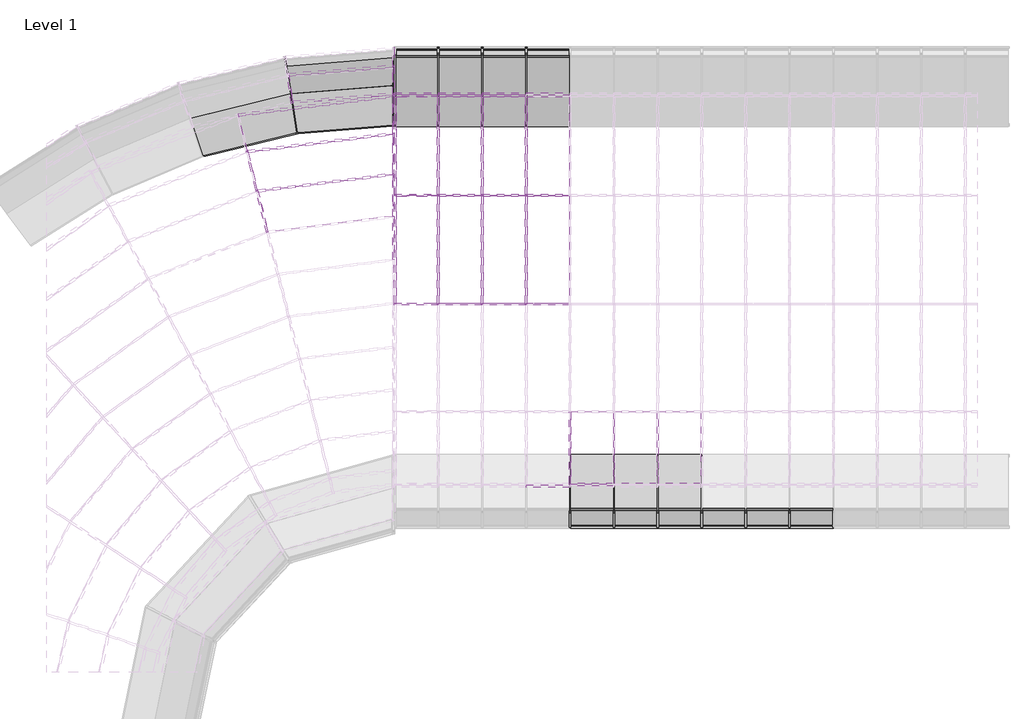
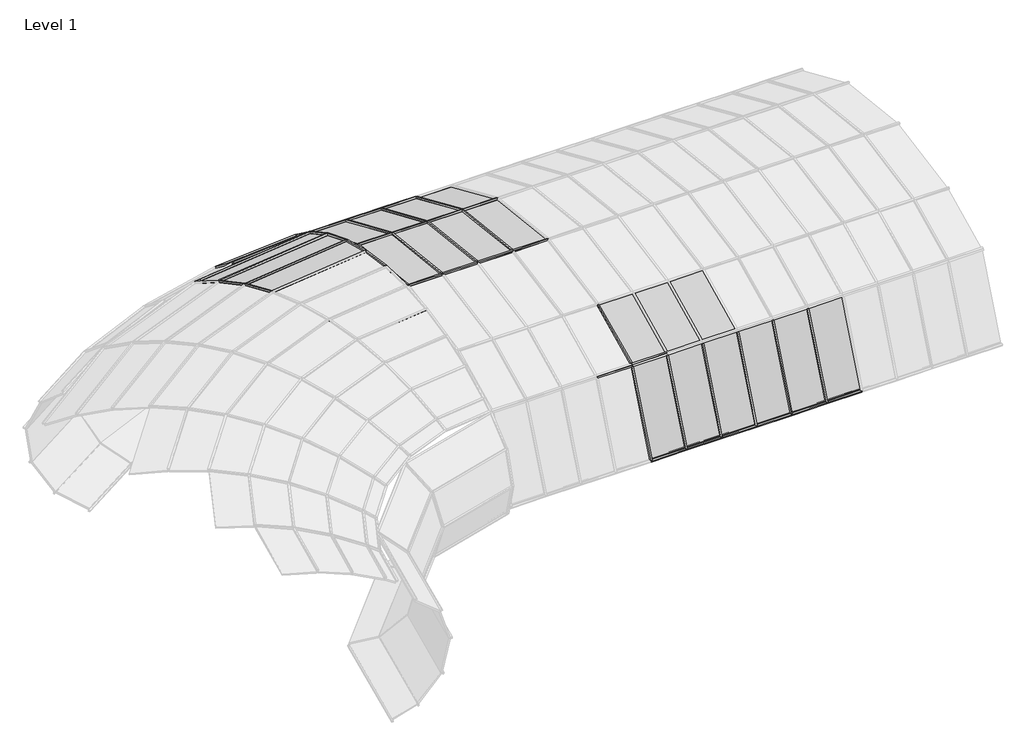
# One storey, part 17 of 23: 73 members, 35 plates.
"""IFC4 building model written with IfcOpenShell, lengths in millimetres."""

from ifc_helpers import new_model, si_unit, origin, place, context, project, spatial, transform, mapped, element, save
from components import member_e3cda178, member_5c7fdabc, member_447cb305, member_9c203333, member_b8d5ad2c, member_f15ee7b7, member_0b29da72, member_7a2ca0a4, member_e6283771, member_68981e21, member_3e1f1dd8, member_d6b8231b, member_8c9da58c, member_01ebdf2a, member_0cd36c09, member_f53a45b1, member_b799f41d, member_a86ed3bc, member_8df4d526, member_0f8f75f6, member_42213d33, member_14e241b9, member_67cfadff, member_309acb9e, member_25f397f4, member_ca6af547, member_12ee2c91, member_00f58b5b, member_1d69e541, member_3d0f16ec, system_panel_glazed_4989902e, system_panel_glazed_3bd09d45, system_panel_glazed_8ed0c2f1, system_panel_glazed_c0d17033, system_panel_glazed_51f493bd, system_panel_glazed_6e806f8e, system_panel_glazed_a1f64e1d, system_panel_glazed_6ab21abb, system_panel_glazed_3957fabc, system_panel_glazed_dfe8d515, system_panel_glazed_035c538e, system_panel_glazed_ea3045b6, system_panel_glazed_7f1dd4a7, system_panel_glazed_0de345d1

model = new_model("IFC4")

# Units and contexts
model_context = context("Model", 3, world=origin())
ifc_project = project(units=[si_unit("LENGTHUNIT", "METRE", prefix="MILLI")], contexts=[model_context])

# Site, building, storey
site = spatial("IfcSite", under=ifc_project)
building = spatial("IfcBuilding", under=site)
storey = spatial("IfcBuildingStorey", under=building, Name="Level 1", Elevation=0.0)

# Members
placement = place(None, origin())
member_shape = member_e3cda178(model_context)
element("IfcMember", 1, ObjectType="Rectangular Mullion : 1\" Square", at=placement, inside=storey, context=model_context, shape_type="MappedRepresentation", body=[
    mapped(member_shape, transform((-11947.494964, 6755.4298316, 2378.3537392), x_axis=(0.11179864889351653, -0.8986414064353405, 0.424198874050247), y_axis=(-0.0523702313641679, 0.4209537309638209, 0.9055690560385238), z_axis=(-0.9923499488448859, -0.12345679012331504, 0.0))),
])
member_2_shape = member_5c7fdabc(model_context)
element("IfcMember", 2, ObjectType="Rectangular Mullion : 1\" Square", at=placement, inside=storey, context=model_context, shape_type="MappedRepresentation", body=[
    mapped(member_2_shape, transform((-11808.8699791, 6206.916685, 2605.3528615), x_axis=(0.1172140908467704, -0.9421709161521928, 0.3139662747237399), y_axis=(-0.03876126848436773, 0.31156441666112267, 0.9494341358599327), z_axis=(-0.9923499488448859, -0.12345679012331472, 0.0))),
])
member_3_shape = member_447cb305(model_context)
element("IfcMember", 3, ObjectType="Rectangular Mullion : 1\" Square", at=placement, inside=storey, context=model_context, shape_type="MappedRepresentation", body=[
    mapped(member_3_shape, transform((-9938.1556701, 7540.1167728, 2085.6089632), x_axis=(-0.10809684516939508, 0.868886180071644, -0.48306508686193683), y_axis=(-0.05963766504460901, 0.4793696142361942, 0.8755844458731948), z_axis=(0.9923499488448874, 0.12345679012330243, 0.0))),
])
member_4_shape = member_9c203333(model_context)
element("IfcMember", 4, ObjectType="Rectangular Mullion : 1\" Square", at=placement, inside=storey, context=model_context, shape_type="MappedRepresentation", body=[
    mapped(member_4_shape, transform((-11274.5302395, 7000.5494364, 0.0), x_axis=(0.2284007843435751, -0.9320944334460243, -0.2811281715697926), y_axis=(-0.06690829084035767, 0.27305004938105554, -0.9596702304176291), z_axis=(0.9712653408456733, 0.2379992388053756, 0.0))),
])
member_5_shape = member_b8d5ad2c(model_context)
element("IfcMember", 5, ObjectType="Rectangular Mullion : 1\" Square", at=placement, inside=storey, context=model_context, shape_type="MappedRepresentation", body=[
    mapped(member_5_shape, transform((-11342.8806242, 7582.2581608, 170.8694653), x_axis=(-0.06753687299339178, 0.8413340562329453, 0.5362795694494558), y_axis=(-0.042911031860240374, 0.534560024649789, -0.8440404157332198), z_axis=(-0.9967935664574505, -0.08001616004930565, 0.0))),
])
member_6_shape = member_f15ee7b7(model_context)
element("IfcMember", 6, ObjectType="Rectangular Mullion : 1\" Square", at=placement, inside=storey, context=model_context, shape_type="MappedRepresentation", body=[
    mapped(member_6_shape, transform((-9938.268538, 7109.8483199, 0.0), x_axis=(0.07678912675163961, -0.956593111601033, -0.28112817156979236), y_axis=(-0.02249479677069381, 0.2802267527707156, -0.9596702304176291), z_axis=(0.9967935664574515, 0.08001616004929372, 0.0))),
])
member_7_shape = member_0b29da72(model_context)
element("IfcMember", 7, ObjectType="Rectangular Mullion : 1\" Square", at=placement, inside=storey, context=model_context, shape_type="MappedRepresentation", body=[
    mapped(member_7_shape, transform((-11406.8901733, 7978.385404, 629.7792003), x_axis=(-0.033789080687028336, 0.42092420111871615, 0.9064662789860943), y_axis=(-0.07253195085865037, 0.9035597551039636, -0.4222782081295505), z_axis=(-0.9967935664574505, -0.08001616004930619, 0.0))),
])
member_8_shape = member_7a2ca0a4(model_context)
element("IfcMember", 8, ObjectType="Rectangular Mullion : 1\" Square", at=placement, inside=storey, context=model_context, shape_type="MappedRepresentation", body=[
    mapped(member_8_shape, transform((-11381.9802385, 7824.2286581, 1789.6405438), x_axis=(0.05180238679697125, -0.6453232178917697, 0.762151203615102), y_axis=(-0.06098441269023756, 0.759707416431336, 0.647399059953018), z_axis=(-0.9967935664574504, -0.08001616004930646, 0.0))),
])
member_9_shape = member_e6283771(model_context)
element("IfcMember", 9, ObjectType="Rectangular Mullion : 1\" Square", at=placement, inside=storey, context=model_context, shape_type="MappedRepresentation", body=[
    mapped(member_9_shape, transform((-11318.3479775, 7430.4362864, 2085.6089632), x_axis=(0.06418665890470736, -0.7995990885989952, 0.5970941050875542), y_axis=(-0.047777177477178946, 0.5951795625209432, 0.8021711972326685), z_axis=(-0.9967935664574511, -0.08001616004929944, 0.0))),
])
member_10_shape = member_68981e21(model_context)
element("IfcMember", 10, ObjectType="Rectangular Mullion : 1\" Square", at=placement, inside=storey, context=model_context, shape_type="MappedRepresentation", body=[
    mapped(member_10_shape, transform((-7474.5499814, 2539.8807303, 0.0), x_axis=(0.0, 0.8307182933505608, -0.5566930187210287), y_axis=(0.0, -0.5566930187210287, -0.8307182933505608), z_axis=(-1.0, 0.0, 0.0))),
])
element("IfcMember", 11, ObjectType="Rectangular Mullion : 1\" Square", at=placement, inside=storey, context=model_context, shape_type="MappedRepresentation", body=[
    mapped(member_10_shape, transform((-6864.9499814, 2539.8807303, 0.0), x_axis=(0.0, 0.8307182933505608, -0.5566930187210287), y_axis=(0.0, -0.5566930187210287, -0.8307182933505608), z_axis=(-1.0, 0.0, 0.0))),
])
element("IfcMember", 12, ObjectType="Rectangular Mullion : 1\" Square", at=placement, inside=storey, context=model_context, shape_type="MappedRepresentation", body=[
    mapped(member_10_shape, transform((-6255.3499814, 2539.8807303, 0.0), x_axis=(0.0, 0.8307182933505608, -0.5566930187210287), y_axis=(0.0, -0.5566930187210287, -0.8307182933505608), z_axis=(-1.0, 0.0, 0.0))),
])
element("IfcMember", 13, ObjectType="Rectangular Mullion : 1\" Square", at=placement, inside=storey, context=model_context, shape_type="MappedRepresentation", body=[
    mapped(member_10_shape, transform((-7474.5499814, 2108.5088854, 2085.6089632), x_axis=(0.0, -0.9009025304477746, -0.4340214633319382), y_axis=(0.0, -0.4340214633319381, 0.9009025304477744), z_axis=(-1.0, 0.0, 0.0))),
])
element("IfcMember", 14, ObjectType="Rectangular Mullion : 1\" Square", at=placement, inside=storey, context=model_context, shape_type="MappedRepresentation", body=[
    mapped(member_10_shape, transform((-8693.7499814, 7543.2525753, 2085.6089632), x_axis=(0.0, 0.9167487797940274, -0.39946423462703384), y_axis=(0.0, 0.39946423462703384, 0.9167487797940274), z_axis=(1.0, 0.0, 0.0))),
])
element("IfcMember", 15, ObjectType="Rectangular Mullion : 1\" Square", at=placement, inside=storey, context=model_context, shape_type="MappedRepresentation", body=[
    mapped(member_10_shape, transform((-8084.1499814, 7543.2525753, 2085.6089632), x_axis=(0.0, 0.9167487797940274, -0.39946423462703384), y_axis=(0.0, 0.39946423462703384, 0.9167487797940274), z_axis=(1.0, 0.0, 0.0))),
])
element("IfcMember", 16, ObjectType="Rectangular Mullion : 1\" Square", at=placement, inside=storey, context=model_context, shape_type="MappedRepresentation", body=[
    mapped(member_10_shape, transform((-8084.1499814, 7111.8807303, 0.0), x_axis=(0.0, -0.713412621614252, -0.7007441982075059), y_axis=(0.0, 0.7007441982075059, -0.713412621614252), z_axis=(1.0, 0.0, 0.0))),
])
element("IfcMember", 17, ObjectType="Rectangular Mullion : 1\" Square", at=placement, inside=storey, context=model_context, shape_type="MappedRepresentation", body=[
    mapped(member_10_shape, transform((-8693.7499814, 7111.8807303, 0.0), x_axis=(0.0, -0.713412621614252, -0.7007441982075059), y_axis=(0.0, 0.7007441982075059, -0.713412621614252), z_axis=(1.0, 0.0, 0.0))),
])
member_11_shape = member_3e1f1dd8(model_context)
element("IfcMember", 18, ObjectType="Rectangular Mullion : 1\" Square", at=placement, inside=storey, context=model_context, shape_type="MappedRepresentation", body=[
    mapped(member_11_shape, transform((-7474.5499814, 1534.1192339, 673.9955146), x_axis=(0.0, 0.38018576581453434, -0.9249101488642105), y_axis=(0.0, -0.9249101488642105, -0.38018576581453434), z_axis=(-1.0, 0.0, 0.0))),
])
element("IfcMember", 19, ObjectType="Rectangular Mullion : 1\" Square", at=placement, inside=storey, context=model_context, shape_type="MappedRepresentation", body=[
    mapped(member_11_shape, transform((-6864.9499814, 1534.1192339, 673.9955146), x_axis=(0.0, 0.38018576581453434, -0.9249101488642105), y_axis=(0.0, -0.9249101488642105, -0.38018576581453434), z_axis=(-1.0, 0.0, 0.0))),
])
element("IfcMember", 20, ObjectType="Rectangular Mullion : 1\" Square", at=placement, inside=storey, context=model_context, shape_type="MappedRepresentation", body=[
    mapped(member_11_shape, transform((-6255.3499814, 1534.1192339, 673.9955146), x_axis=(0.0, 0.38018576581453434, -0.9249101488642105), y_axis=(0.0, -0.9249101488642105, -0.38018576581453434), z_axis=(-1.0, 0.0, 0.0))),
])
element("IfcMember", 21, ObjectType="Rectangular Mullion : 1\" Square", at=placement, inside=storey, context=model_context, shape_type="MappedRepresentation", body=[
    mapped(member_11_shape, transform((-5645.7499814, 1534.1192339, 673.9955146), x_axis=(0.0, 0.38018576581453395, -0.9249101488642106), y_axis=(0.0, -0.9249101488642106, -0.38018576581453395), z_axis=(-1.0, 0.0, 0.0))),
])
element("IfcMember", 22, ObjectType="Rectangular Mullion : 1\" Square", at=placement, inside=storey, context=model_context, shape_type="MappedRepresentation", body=[
    mapped(member_11_shape, transform((-5036.1499814, 1534.1192339, 673.9955146), x_axis=(0.0, 0.38018576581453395, -0.9249101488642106), y_axis=(0.0, -0.9249101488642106, -0.38018576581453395), z_axis=(-1.0, 0.0, 0.0))),
])
element("IfcMember", 23, ObjectType="Rectangular Mullion : 1\" Square", at=placement, inside=storey, context=model_context, shape_type="MappedRepresentation", body=[
    mapped(member_11_shape, transform((-4426.5499814, 1534.1192339, 673.9955146), x_axis=(0.0, 0.38018576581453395, -0.9249101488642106), y_axis=(0.0, -0.9249101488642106, -0.38018576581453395), z_axis=(-1.0, 0.0, 0.0))),
])
element("IfcMember", 24, ObjectType="Rectangular Mullion : 1\" Square", at=placement, inside=storey, context=model_context, shape_type="MappedRepresentation", body=[
    mapped(member_11_shape, transform((-9303.3499814, 4631.6132499, 2864.1651971), x_axis=(0.0, -0.9992773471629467, -0.038010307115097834), y_axis=(0.0, -0.038010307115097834, 0.9992773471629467), z_axis=(-1.0, 0.0, 0.0))),
])
element("IfcMember", 25, ObjectType="Rectangular Mullion : 1\" Square", at=placement, inside=storey, context=model_context, shape_type="MappedRepresentation", body=[
    mapped(member_11_shape, transform((-8693.7499814, 4631.6132499, 2864.1651971), x_axis=(0.0, -0.9992773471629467, -0.038010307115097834), y_axis=(0.0, -0.038010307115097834, 0.9992773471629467), z_axis=(-1.0, 0.0, 0.0))),
])
element("IfcMember", 26, ObjectType="Rectangular Mullion : 1\" Square", at=placement, inside=storey, context=model_context, shape_type="MappedRepresentation", body=[
    mapped(member_11_shape, transform((-8084.1499814, 4631.6132499, 2864.1651971), x_axis=(0.0, -0.9992773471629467, -0.038010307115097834), y_axis=(0.0, -0.038010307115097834, 0.9992773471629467), z_axis=(-1.0, 0.0, 0.0))),
])
element("IfcMember", 27, ObjectType="Rectangular Mullion : 1\" Square", at=placement, inside=storey, context=model_context, shape_type="MappedRepresentation", body=[
    mapped(member_11_shape, transform((-9912.9499814, 4631.6132499, 2864.1651971), x_axis=(0.0, -0.9992773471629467, -0.038010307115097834), y_axis=(0.0, -0.038010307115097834, 0.9992773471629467), z_axis=(-1.0, 0.0, 0.0))),
])
element("IfcMember", 28, ObjectType="Rectangular Mullion : 1\" Square", at=placement, inside=storey, context=model_context, shape_type="MappedRepresentation", body=[
    mapped(member_10_shape, transform((-7474.5499814, 2108.5088854, 2085.6089632), x_axis=(0.0, 0.37689609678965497, 0.9262555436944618), y_axis=(0.0, -0.9262555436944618, 0.37689609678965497), z_axis=(1.0, 0.0, 0.0))),
])
element("IfcMember", 29, ObjectType="Rectangular Mullion : 1\" Square", at=placement, inside=storey, context=model_context, shape_type="MappedRepresentation", body=[
    mapped(member_10_shape, transform((-9303.3499814, 7543.2525753, 2085.6089632), x_axis=(0.0, -0.5417212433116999, 0.8405582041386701), y_axis=(0.0, 0.8405582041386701, 0.5417212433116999), z_axis=(-1.0, 0.0, 0.0))),
])
element("IfcMember", 30, ObjectType="Rectangular Mullion : 1\" Square", at=placement, inside=storey, context=model_context, shape_type="MappedRepresentation", body=[
    mapped(member_10_shape, transform((-8693.7499814, 7543.2525753, 2085.6089632), x_axis=(0.0, -0.5417212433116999, 0.8405582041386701), y_axis=(0.0, 0.8405582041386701, 0.5417212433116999), z_axis=(-1.0, 0.0, 0.0))),
])
element("IfcMember", 31, ObjectType="Rectangular Mullion : 1\" Square", at=placement, inside=storey, context=model_context, shape_type="MappedRepresentation", body=[
    mapped(member_10_shape, transform((-8084.1499814, 7543.2525753, 2085.6089632), x_axis=(0.0, -0.5417212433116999, 0.8405582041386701), y_axis=(0.0, 0.8405582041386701, 0.5417212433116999), z_axis=(-1.0, 0.0, 0.0))),
])
element("IfcMember", 32, ObjectType="Rectangular Mullion : 1\" Square", at=placement, inside=storey, context=model_context, shape_type="MappedRepresentation", body=[
    mapped(member_11_shape, transform((-9303.3499814, 6146.1274349, 2694.3924567), x_axis=(0.0, -0.9660596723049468, 0.25831900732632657), y_axis=(0.0, 0.25831900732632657, 0.9660596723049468), z_axis=(-1.0, 0.0, 0.0))),
])
element("IfcMember", 33, ObjectType="Rectangular Mullion : 1\" Square", at=placement, inside=storey, context=model_context, shape_type="MappedRepresentation", body=[
    mapped(member_11_shape, transform((-8693.7499814, 6146.1274349, 2694.3924567), x_axis=(0.0, -0.9660596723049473, 0.25831900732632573), y_axis=(0.0, 0.2583190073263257, 0.966059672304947), z_axis=(-1.0, 0.0, 0.0))),
])
element("IfcMember", 34, ObjectType="Rectangular Mullion : 1\" Square", at=placement, inside=storey, context=model_context, shape_type="MappedRepresentation", body=[
    mapped(member_11_shape, transform((-8084.1499814, 6146.1274349, 2694.3924567), x_axis=(0.0, -0.9660596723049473, 0.25831900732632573), y_axis=(0.0, 0.2583190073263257, 0.966059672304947), z_axis=(-1.0, 0.0, 0.0))),
])
element("IfcMember", 35, ObjectType="Rectangular Mullion : 1\" Square", at=placement, inside=storey, context=model_context, shape_type="MappedRepresentation", body=[
    mapped(member_10_shape, transform((-9303.3499814, 7543.2525753, 2085.6089632), x_axis=(0.0, 0.9167487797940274, -0.3994642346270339), y_axis=(0.0, 0.3994642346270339, 0.9167487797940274), z_axis=(1.0, 0.0, 0.0))),
])
element("IfcMember", 36, ObjectType="Rectangular Mullion : 1\" Square", at=placement, inside=storey, context=model_context, shape_type="MappedRepresentation", body=[
    mapped(member_10_shape, transform((-9303.3499814, 7111.8807303, 0.0), x_axis=(0.0, -0.713412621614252, -0.7007441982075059), y_axis=(0.0, 0.7007441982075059, -0.713412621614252), z_axis=(1.0, 0.0, 0.0))),
])
element("IfcMember", 37, ObjectType="Rectangular Mullion : 1\" Square", at=placement, inside=storey, context=model_context, shape_type="MappedRepresentation", body=[
    mapped(member_11_shape, transform((-9912.9499814, 6146.1274349, 2694.3924567), x_axis=(0.0, -0.9660596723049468, 0.25831900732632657), y_axis=(0.0, 0.25831900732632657, 0.9660596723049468), z_axis=(-1.0, 0.0, 0.0))),
])
element("IfcMember", 38, ObjectType="Rectangular Mullion : 1\" Square", at=placement, inside=storey, context=model_context, shape_type="MappedRepresentation", body=[
    mapped(member_10_shape, transform((-9912.9499814, 7543.2525753, 2085.6089632), x_axis=(0.0, -0.5417212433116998, 0.8405582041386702), y_axis=(0.0, 0.8405582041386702, 0.5417212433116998), z_axis=(-1.0, 0.0, 0.0))),
])
member_12_shape = member_d6b8231b(model_context)
element("IfcMember", 39, ObjectType="Rectangular Mullion : 1\" Square", at=placement, inside=storey, context=model_context, shape_type="MappedRepresentation", body=[
    mapped(member_12_shape, transform((-11262.1951697, 7003.5720267, 0.0), x_axis=(-0.9871948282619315, -0.1595191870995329, 0.0), y_axis=(-0.04471285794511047, 0.2767084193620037, -0.9599131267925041), z_axis=(0.15312456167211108, -0.9476212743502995, -0.2802976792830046))),
])
member_13_shape = member_8c9da58c(model_context)
element("IfcMember", 40, ObjectType="Rectangular Mullion : 1\" Square", at=placement, inside=storey, context=model_context, shape_type="MappedRepresentation", body=[
    mapped(member_13_shape, transform((-11355.5399025, 7581.2419556, 170.8694653), x_axis=(-0.9871948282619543, -0.15951918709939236, 0.0), y_axis=(-0.12008679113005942, 0.7431648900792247, -0.6582439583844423), z_axis=(0.10500254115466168, -0.6498150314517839, -0.7528046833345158))),
])
element("IfcMember", 41, ObjectType="Rectangular Mullion : 1\" Square", at=placement, inside=storey, context=model_context, shape_type="MappedRepresentation", body=[
    mapped(member_13_shape, transform((-11419.5494516, 7977.3691988, 629.7792003), x_axis=(-0.9871948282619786, -0.1595191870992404, 0.0), y_axis=(-0.15772138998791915, 0.9760690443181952, -0.14971033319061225), z_axis=(0.02388167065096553, -0.14779326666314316, -0.9887299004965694))),
])
member_14_shape = member_01ebdf2a(model_context)
element("IfcMember", 42, ObjectType="Rectangular Mullion : 1\" Square", at=placement, inside=storey, context=model_context, shape_type="MappedRepresentation", body=[
    mapped(member_14_shape, transform((-11394.6395168, 7823.2124528, 1789.6405438), x_axis=(-0.9871948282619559, -0.15951918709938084, 0.0), y_axis=(-0.09505110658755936, 0.5882299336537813, 0.803088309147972), z_axis=(-0.12810799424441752, 0.792804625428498, -0.5958600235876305))),
])
member_15_shape = member_0cd36c09(model_context)
element("IfcMember", 43, ObjectType="Rectangular Mullion : 1\" Square", at=placement, inside=storey, context=model_context, shape_type="MappedRepresentation", body=[
    mapped(member_15_shape, transform((-11960.0978083, 6753.8619304, 2378.3537392), x_axis=(-0.9695168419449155, -0.24502467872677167, 0.0), y_axis=(-0.09124079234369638, 0.36102275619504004, 0.9280828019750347), z_axis=(-0.2274031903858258, 0.899791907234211, -0.37237388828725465))),
])
element("IfcMember", 44, ObjectType="Rectangular Mullion : 1\" Square", at=placement, inside=storey, context=model_context, shape_type="MappedRepresentation", body=[
    mapped(member_15_shape, transform((-11821.4728235, 6205.3487837, 2605.3528615), x_axis=(-0.9695168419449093, -0.24502467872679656, 0.0), y_axis=(-0.06351674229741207, 0.25132387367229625, 0.9658167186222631), z_axis=(-0.23664893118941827, 0.9363755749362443, -0.25922589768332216))),
])
member_16_shape = member_f53a45b1(model_context)
element("IfcMember", 45, ObjectType="Rectangular Mullion : 1\" Square", at=placement, inside=storey, context=model_context, shape_type="MappedRepresentation", body=[
    mapped(member_16_shape, transform((-9912.9499814, 7543.2525753, 2085.6089632), x_axis=(0.998858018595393, 0.02846851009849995, 0.03836929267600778), y_axis=(-0.04777717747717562, 0.595179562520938, 0.8021711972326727), z_axis=(0.0, -0.8030883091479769, 0.5958600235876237))),
])
member_17_shape = member_b799f41d(model_context)
element("IfcMember", 46, ObjectType="Rectangular Mullion : 1\" Square", at=placement, inside=storey, context=model_context, shape_type="MappedRepresentation", body=[
    mapped(member_17_shape, transform((-9912.9499814, 7008.5445652, 2378.3537392), x_axis=(0.9982200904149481, 0.02863946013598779, 0.052310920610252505), y_axis=(-0.05963766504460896, 0.4793696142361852, 0.8755844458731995), z_axis=(0.0, -0.8771456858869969, 0.4802243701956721))),
])
member_18_shape = member_a86ed3bc(model_context)
element("IfcMember", 47, ObjectType="Rectangular Mullion : 1\" Square", at=placement, inside=storey, context=model_context, shape_type="MappedRepresentation", body=[
    mapped(member_18_shape, transform((-9912.9499814, 7697.0437724, 170.8694653), x_axis=(0.9997469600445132, 0.006305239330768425, -0.021593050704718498), y_axis=(-0.02249479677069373, 0.28022675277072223, -0.9596702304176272), z_axis=(0.0, 0.9599131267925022, 0.2802976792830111))),
])
member_19_shape = member_8df4d526(model_context)
element("IfcMember", 48, ObjectType="Rectangular Mullion : 1\" Square", at=placement, inside=storey, context=model_context, shape_type="MappedRepresentation", body=[
    mapped(member_19_shape, transform((-9912.9499814, 7942.1529346, 1789.6405438), x_axis=(0.9973196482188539, 0.06687018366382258, 0.029696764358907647), y_axis=(-0.07316774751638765, 0.9114801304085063, 0.40478445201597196), z_axis=(0.0, -0.4058723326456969, 0.9139297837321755))),
])
member_20_shape = member_0f8f75f6(model_context)
element("IfcMember", 49, ObjectType="Rectangular Mullion : 1\" Square", at=placement, inside=storey, context=model_context, shape_type="MappedRepresentation", body=[
    mapped(member_20_shape, transform((-6864.9499814, 2518.7804857, 14.1400027), x_axis=(1.0, 0.0, 0.0), y_axis=(0.0, -0.5566930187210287, -0.8307182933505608), z_axis=(0.0, 0.8307182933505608, -0.5566930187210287))),
])
element("IfcMember", 50, ObjectType="Rectangular Mullion : 1\" Square", at=placement, inside=storey, context=model_context, shape_type="MappedRepresentation", body=[
    mapped(member_20_shape, transform((-6255.3499814, 2518.7804857, 14.1400027), x_axis=(1.0, 0.0, 0.0), y_axis=(0.0, -0.5566930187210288, -0.8307182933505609), z_axis=(0.0, 0.8307182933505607, -0.5566930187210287))),
])
element("IfcMember", 51, ObjectType="Rectangular Mullion : 1\" Square", at=placement, inside=storey, context=model_context, shape_type="MappedRepresentation", body=[
    mapped(member_20_shape, transform((-7474.5499814, 2518.7804857, 14.1400027), x_axis=(1.0, 0.0, 0.0), y_axis=(0.0, -0.5566930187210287, -0.8307182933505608), z_axis=(0.0, 0.8307182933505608, -0.5566930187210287))),
])
member_21_shape = member_42213d33(model_context)
element("IfcMember", 52, ObjectType="Rectangular Mullion : 1\" Square", at=placement, inside=storey, context=model_context, shape_type="MappedRepresentation", body=[
    mapped(member_21_shape, transform((-6864.9499814, 1538.9058143, 685.75896), x_axis=(1.0, 0.0, 0.0), y_axis=(0.0, -0.926255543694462, 0.3768960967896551), z_axis=(0.0, -0.37689609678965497, -0.9262555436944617))),
])
element("IfcMember", 53, ObjectType="Rectangular Mullion : 1\" Square", at=placement, inside=storey, context=model_context, shape_type="MappedRepresentation", body=[
    mapped(member_21_shape, transform((-6255.3499814, 1538.9058143, 685.75896), x_axis=(1.0, 0.0, 0.0), y_axis=(0.0, -0.926255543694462, 0.3768960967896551), z_axis=(0.0, -0.37689609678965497, -0.9262555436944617))),
])
element("IfcMember", 54, ObjectType="Rectangular Mullion : 1\" Square", at=placement, inside=storey, context=model_context, shape_type="MappedRepresentation", body=[
    mapped(member_21_shape, transform((-5645.7499814, 1538.9058143, 685.75896), x_axis=(0.9999999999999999, 0.0, 0.0), y_axis=(0.0, -0.926255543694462, 0.376896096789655), z_axis=(0.0, -0.37689609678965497, -0.9262555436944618))),
])
element("IfcMember", 55, ObjectType="Rectangular Mullion : 1\" Square", at=placement, inside=storey, context=model_context, shape_type="MappedRepresentation", body=[
    mapped(member_21_shape, transform((-5036.1499814, 1538.9058143, 685.75896), x_axis=(0.9999999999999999, 0.0, 0.0), y_axis=(0.0, -0.926255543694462, 0.376896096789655), z_axis=(0.0, -0.37689609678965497, -0.9262555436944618))),
])
element("IfcMember", 56, ObjectType="Rectangular Mullion : 1\" Square", at=placement, inside=storey, context=model_context, shape_type="MappedRepresentation", body=[
    mapped(member_21_shape, transform((-4426.5499814, 1538.9058143, 685.75896), x_axis=(0.9999999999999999, 0.0, 0.0), y_axis=(0.0, -0.926255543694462, 0.376896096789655), z_axis=(0.0, -0.37689609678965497, -0.9262555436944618))),
])
element("IfcMember", 57, ObjectType="Rectangular Mullion : 1\" Square", at=placement, inside=storey, context=model_context, shape_type="MappedRepresentation", body=[
    mapped(member_21_shape, transform((-7474.5499814, 1538.9058143, 685.75896), x_axis=(1.0, 0.0, 0.0), y_axis=(0.0, -0.926255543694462, 0.3768960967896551), z_axis=(0.0, -0.37689609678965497, -0.9262555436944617))),
])
member_22_shape = member_14e241b9(model_context)
element("IfcMember", 58, ObjectType="Rectangular Mullion : 1\" Square", at=placement, inside=storey, context=model_context, shape_type="MappedRepresentation", body=[
    mapped(member_22_shape, transform((-7474.5499814, 2131.3918096, 2096.6331083), x_axis=(1.0, 0.0, 0.0), y_axis=(0.0, -0.43402146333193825, 0.9009025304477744), z_axis=(0.0, -0.9009025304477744, -0.43402146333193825))),
])
member_23_shape = member_67cfadff(model_context)
element("IfcMember", 59, ObjectType="Rectangular Mullion : 1\" Square", at=placement, inside=storey, context=model_context, shape_type="MappedRepresentation", body=[
    mapped(member_23_shape, transform((-8693.7499814, 6157.7701444, 2689.3192609), x_axis=(0.9999999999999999, 0.0, 0.0), y_axis=(0.0, 0.3994642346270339, 0.9167487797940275), z_axis=(0.0, -0.9167487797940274, 0.39946423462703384))),
])
element("IfcMember", 60, ObjectType="Rectangular Mullion : 1\" Square", at=placement, inside=storey, context=model_context, shape_type="MappedRepresentation", body=[
    mapped(member_23_shape, transform((-9303.3499814, 6157.7701444, 2689.3192609), x_axis=(1.0, 0.0, 0.0), y_axis=(0.0, 0.3994642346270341, 0.9167487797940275), z_axis=(0.0, -0.9167487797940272, 0.399464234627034))),
])
element("IfcMember", 61, ObjectType="Rectangular Mullion : 1\" Square", at=placement, inside=storey, context=model_context, shape_type="MappedRepresentation", body=[
    mapped(member_23_shape, transform((-8084.1499814, 6157.7701444, 2689.3192609), x_axis=(0.9999999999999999, 0.0, 0.0), y_axis=(0.0, 0.3994642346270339, 0.9167487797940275), z_axis=(0.0, -0.9167487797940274, 0.39946423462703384))),
])
member_24_shape = member_309acb9e(model_context)
element("IfcMember", 62, ObjectType="Rectangular Mullion : 1\" Square", at=placement, inside=storey, context=model_context, shape_type="MappedRepresentation", body=[
    mapped(member_24_shape, transform((-8693.7499814, 4644.2342014, 2862.7504243), x_axis=(0.9999999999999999, 0.0, 0.0), y_axis=(0.0, 0.1113994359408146, 0.9937757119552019), z_axis=(0.0, -0.9937757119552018, 0.11139943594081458))),
])
element("IfcMember", 63, ObjectType="Rectangular Mullion : 1\" Square", at=placement, inside=storey, context=model_context, shape_type="MappedRepresentation", body=[
    mapped(member_24_shape, transform((-9303.3499814, 4644.2342014, 2862.7504243), x_axis=(0.9999999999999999, 0.0, 0.0), y_axis=(0.0, 0.11139943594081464, 0.9937757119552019), z_axis=(0.0, -0.9937757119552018, 0.11139943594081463))),
])
element("IfcMember", 64, ObjectType="Rectangular Mullion : 1\" Square", at=placement, inside=storey, context=model_context, shape_type="MappedRepresentation", body=[
    mapped(member_24_shape, transform((-8084.1499814, 4644.2342014, 2862.7504243), x_axis=(0.9999999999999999, 0.0, 0.0), y_axis=(0.0, 0.1113994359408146, 0.9937757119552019), z_axis=(0.0, -0.9937757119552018, 0.11139943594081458))),
])
element("IfcMember", 65, ObjectType="Rectangular Mullion : 1\" Square", at=placement, inside=storey, context=model_context, shape_type="MappedRepresentation", body=[
    mapped(member_20_shape, transform((-8084.1499814, 7557.0122949, 2064.2587848), x_axis=(1.0, 0.0, 0.0), y_axis=(0.0, 0.8405582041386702, 0.5417212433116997), z_axis=(0.0, -0.5417212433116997, 0.8405582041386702))),
])
element("IfcMember", 66, ObjectType="Rectangular Mullion : 1\" Square", at=placement, inside=storey, context=model_context, shape_type="MappedRepresentation", body=[
    mapped(member_20_shape, transform((-8693.7499814, 7557.0122949, 2064.2587848), x_axis=(1.0, 0.0, 0.0), y_axis=(0.0, 0.8405582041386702, 0.5417212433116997), z_axis=(0.0, -0.5417212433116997, 0.8405582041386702))),
])
element("IfcMember", 67, ObjectType="Rectangular Mullion : 1\" Square", at=placement, inside=storey, context=model_context, shape_type="MappedRepresentation", body=[
    mapped(member_20_shape, transform((-9303.3499814, 7557.0122949, 2064.2587848), x_axis=(1.0, 0.0, 0.0), y_axis=(0.0, 0.8405582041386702, 0.5417212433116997), z_axis=(0.0, -0.5417212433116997, 0.8405582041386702))),
])
member_25_shape = member_25f397f4(model_context)
element("IfcMember", 68, ObjectType="Rectangular Mullion : 1\" Square", at=placement, inside=storey, context=model_context, shape_type="MappedRepresentation", body=[
    mapped(member_25_shape, transform((-9912.9499814, 7130.0014109, 17.7989026), x_axis=(-1.0, 0.0, 0.0), y_axis=(0.0, 0.7007441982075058, -0.713412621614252), z_axis=(0.0, -0.713412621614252, -0.7007441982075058))),
])
member_26_shape = member_ca6af547(model_context)
element("IfcMember", 69, ObjectType="Rectangular Mullion : 1\" Square", at=placement, inside=storey, context=model_context, shape_type="MappedRepresentation", body=[
    mapped(member_26_shape, transform((-9912.9499814, 5250.6348627, 2850.17796), x_axis=(0.9998431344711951, 0.002521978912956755, 0.017531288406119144), y_axis=(-0.017711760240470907, 0.14236774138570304, 0.9896553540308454), z_axis=(0.0, -0.9898106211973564, 0.1423900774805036))),
])
member_27_shape = member_12ee2c91(model_context)
element("IfcMember", 70, ObjectType="Rectangular Mullion : 1\" Square", at=placement, inside=storey, context=model_context, shape_type="MappedRepresentation", body=[
    mapped(member_27_shape, transform((-9912.9499814, 6442.7852891, 2605.3528615), x_axis=(0.9989286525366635, 0.017232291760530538, 0.042948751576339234), y_axis=(-0.04627685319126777, 0.371974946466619, 0.9270885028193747), z_axis=(0.0, -0.9280828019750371, 0.3723738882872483))),
])
member_28_shape = member_00f58b5b(model_context)
element("IfcMember", 71, ObjectType="Rectangular Mullion : 1\" Square", at=placement, inside=storey, context=model_context, shape_type="MappedRepresentation", body=[
    mapped(member_28_shape, transform((-9912.9499814, 5854.0234174, 2763.3769688), x_axis=(0.9994803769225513, 0.008355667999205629, 0.031131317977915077), y_axis=(-0.03223315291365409, 0.259091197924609, 0.9653148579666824), z_axis=(0.0, -0.9658167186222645, 0.25922589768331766))),
])
member_29_shape = member_1d69e541(model_context)
element("IfcMember", 72, ObjectType="Rectangular Mullion : 1\" Square", at=placement, inside=storey, context=model_context, shape_type="MappedRepresentation", body=[
    mapped(member_29_shape, transform((-9912.9499814, 6133.5064834, 2695.8072296), x_axis=(-1.0, 0.0, 0.0), y_axis=(0.0, 0.11139943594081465, 0.993775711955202), z_axis=(0.0, 0.9937757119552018, -0.11139943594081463))),
])
member_30_shape = member_3d0f16ec(model_context)
element("IfcMember", 73, ObjectType="Rectangular Mullion : 1\" Square", at=placement, inside=storey, context=model_context, shape_type="MappedRepresentation", body=[
    mapped(member_30_shape, transform((-9912.9499814, 7519.9671563, 2095.7553547), x_axis=(-1.0, 0.0, 0.0), y_axis=(0.0, 0.3994642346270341, 0.9167487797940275), z_axis=(0.0, 0.9167487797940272, -0.399464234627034))),
])

# Plates
system_panel_glazed_shape = system_panel_glazed_4989902e(model_context)
element("IfcPlate", 74, ObjectType="System Panel : Glazed", at=placement, inside=storey, context=model_context, shape_type="MappedRepresentation", body=[
    mapped(system_panel_glazed_shape, transform((-9887.5499814, 6838.8686503, 2392.5373078), x_axis=(0.0, -0.9167487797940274, 0.3994642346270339), y_axis=(0.0, -0.3994642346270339, -0.9167487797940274), z_axis=(1.0, 0.0, 0.0))),
])
element("IfcPlate", 75, ObjectType="System Panel : Glazed", at=placement, inside=storey, context=model_context, shape_type="MappedRepresentation", body=[
    mapped(system_panel_glazed_shape, transform((-9887.5499814, 7660.0313181, 538.4168047), x_axis=(0.0, 0.713412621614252, 0.7007441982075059), y_axis=(0.0, -0.7007441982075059, 0.713412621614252), z_axis=(1.0, 0.0, 0.0))),
])
system_panel_glazed_2_shape = system_panel_glazed_3bd09d45(model_context)
element("IfcPlate", 76, ObjectType="System Panel : Glazed", at=placement, inside=storey, context=model_context, shape_type="MappedRepresentation", body=[
    mapped(system_panel_glazed_2_shape, transform((-10595.8714126, 7081.5142355, 7.1406556), x_axis=(-0.9967935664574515, -0.08001616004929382, 0.0), y_axis=(0.02249479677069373, -0.2802267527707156, 0.9596702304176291), z_axis=(-0.07678912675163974, 0.956593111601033, 0.28112817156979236))),
])
system_panel_glazed_3_shape = system_panel_glazed_8ed0c2f1(model_context)
element("IfcPlate", 77, ObjectType="System Panel : Glazed", at=placement, inside=storey, context=model_context, shape_type="MappedRepresentation", body=[
    mapped(system_panel_glazed_3_shape, transform((-11005.6252618, 7384.9031665, 2097.8788164), x_axis=(-0.9923499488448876, -0.12345679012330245, 0.0), y_axis=(0.059637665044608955, -0.4793696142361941, -0.8755844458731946), z_axis=(0.10809684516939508, -0.868886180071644, 0.48306508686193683))),
])
system_panel_glazed_4_shape = system_panel_glazed_c0d17033(model_context)
element("IfcPlate", 78, ObjectType="System Panel : Glazed", at=placement, inside=storey, context=model_context, shape_type="MappedRepresentation", body=[
    mapped(system_panel_glazed_4_shape, transform((-9887.5499814, 5388.8703424, 2779.2788269), x_axis=(0.0, -0.993775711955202, 0.11139943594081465), y_axis=(0.0, -0.11139943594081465, -0.993775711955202), z_axis=(1.0, 0.0, 0.0))),
])
system_panel_glazed_5_shape = system_panel_glazed_51f493bd(model_context)
element("IfcPlate", 79, ObjectType="System Panel : Glazed", at=placement, inside=storey, context=model_context, shape_type="MappedRepresentation", body=[
    mapped(system_panel_glazed_5_shape, transform((-9290.6499814, 6838.8686503, 2392.5373078), x_axis=(0.0, -0.9167487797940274, 0.39946423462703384), y_axis=(0.0, -0.39946423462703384, -0.9167487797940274), z_axis=(1.0, 0.0, 0.0))),
])
element("IfcPlate", 80, ObjectType="System Panel : Glazed", at=placement, inside=storey, context=model_context, shape_type="MappedRepresentation", body=[
    mapped(system_panel_glazed_5_shape, transform((-8681.0499814, 6838.8686503, 2392.5373078), x_axis=(0.0, -0.9167487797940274, 0.39946423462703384), y_axis=(0.0, -0.39946423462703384, -0.9167487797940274), z_axis=(1.0, 0.0, 0.0))),
])
element("IfcPlate", 81, ObjectType="System Panel : Glazed", at=placement, inside=storey, context=model_context, shape_type="MappedRepresentation", body=[
    mapped(system_panel_glazed_5_shape, transform((-8071.4499814, 6838.8686503, 2392.5373078), x_axis=(0.0, -0.9167487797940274, 0.39946423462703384), y_axis=(0.0, -0.39946423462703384, -0.9167487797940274), z_axis=(1.0, 0.0, 0.0))),
])
element("IfcPlate", 82, ObjectType="System Panel : Glazed", at=placement, inside=storey, context=model_context, shape_type="MappedRepresentation", body=[
    mapped(system_panel_glazed_5_shape, transform((-7461.8499814, 1818.9207694, 1373.9205162), x_axis=(0.0, -0.37689609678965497, -0.9262555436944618), y_axis=(0.0, 0.9262555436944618, -0.37689609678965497), z_axis=(1.0, 0.0, 0.0))),
])
element("IfcPlate", 83, ObjectType="System Panel : Glazed", at=placement, inside=storey, context=model_context, shape_type="MappedRepresentation", body=[
    mapped(system_panel_glazed_5_shape, transform((-6852.2499814, 1818.9207694, 1373.9205162), x_axis=(0.0, -0.37689609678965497, -0.9262555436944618), y_axis=(0.0, 0.9262555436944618, -0.37689609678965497), z_axis=(1.0, 0.0, 0.0))),
])
element("IfcPlate", 84, ObjectType="System Panel : Glazed", at=placement, inside=storey, context=model_context, shape_type="MappedRepresentation", body=[
    mapped(system_panel_glazed_5_shape, transform((-6242.6499814, 1818.9207694, 1373.9205162), x_axis=(0.0, -0.37689609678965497, -0.9262555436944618), y_axis=(0.0, 0.9262555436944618, -0.37689609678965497), z_axis=(1.0, 0.0, 0.0))),
])
element("IfcPlate", 85, ObjectType="System Panel : Glazed", at=placement, inside=storey, context=model_context, shape_type="MappedRepresentation", body=[
    mapped(system_panel_glazed_5_shape, transform((-5633.0499814, 1818.9207694, 1373.9205162), x_axis=(0.0, -0.37689609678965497, -0.9262555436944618), y_axis=(0.0, 0.9262555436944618, -0.37689609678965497), z_axis=(1.0, 0.0, 0.0))),
])
element("IfcPlate", 86, ObjectType="System Panel : Glazed", at=placement, inside=storey, context=model_context, shape_type="MappedRepresentation", body=[
    mapped(system_panel_glazed_5_shape, transform((-5023.4499814, 1818.9207694, 1373.9205162), x_axis=(0.0, -0.37689609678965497, -0.9262555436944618), y_axis=(0.0, 0.9262555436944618, -0.37689609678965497), z_axis=(1.0, 0.0, 0.0))),
])
element("IfcPlate", 87, ObjectType="System Panel : Glazed", at=placement, inside=storey, context=model_context, shape_type="MappedRepresentation", body=[
    mapped(system_panel_glazed_5_shape, transform((-4413.8499814, 1818.9207694, 1373.9205162), x_axis=(0.0, -0.3768960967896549, -0.9262555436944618), y_axis=(0.0, 0.9262555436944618, -0.3768960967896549), z_axis=(1.0, 0.0, 0.0))),
])
element("IfcPlate", 88, ObjectType="System Panel : Glazed", at=placement, inside=storey, context=model_context, shape_type="MappedRepresentation", body=[
    mapped(system_panel_glazed_5_shape, transform((-9290.6499814, 7660.0313181, 538.4168047), x_axis=(0.0, 0.713412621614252, 0.7007441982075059), y_axis=(0.0, -0.7007441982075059, 0.713412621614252), z_axis=(1.0, 0.0, 0.0))),
])
element("IfcPlate", 89, ObjectType="System Panel : Glazed", at=placement, inside=storey, context=model_context, shape_type="MappedRepresentation", body=[
    mapped(system_panel_glazed_5_shape, transform((-8681.0499814, 7660.0313181, 538.4168047), x_axis=(0.0, 0.713412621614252, 0.7007441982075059), y_axis=(0.0, -0.7007441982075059, 0.713412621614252), z_axis=(1.0, 0.0, 0.0))),
])
element("IfcPlate", 90, ObjectType="System Panel : Glazed", at=placement, inside=storey, context=model_context, shape_type="MappedRepresentation", body=[
    mapped(system_panel_glazed_5_shape, transform((-8071.4499814, 7660.0313181, 538.4168047), x_axis=(0.0, 0.713412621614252, 0.7007441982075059), y_axis=(0.0, -0.7007441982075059, 0.713412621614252), z_axis=(1.0, 0.0, 0.0))),
])
system_panel_glazed_6_shape = system_panel_glazed_6e806f8e(model_context)
element("IfcPlate", 91, ObjectType="System Panel : Glazed", at=placement, inside=storey, context=model_context, shape_type="MappedRepresentation", body=[
    mapped(system_panel_glazed_6_shape, transform((-9290.6499814, 5388.8703424, 2779.2788269), x_axis=(0.0, -0.993775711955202, 0.11139943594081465), y_axis=(0.0, -0.11139943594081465, -0.993775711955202), z_axis=(1.0, 0.0, 0.0))),
])
element("IfcPlate", 92, ObjectType="System Panel : Glazed", at=placement, inside=storey, context=model_context, shape_type="MappedRepresentation", body=[
    mapped(system_panel_glazed_6_shape, transform((-8681.0499814, 5388.8703424, 2779.2788269), x_axis=(0.0, -0.993775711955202, 0.11139943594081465), y_axis=(0.0, -0.11139943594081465, -0.993775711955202), z_axis=(1.0, 0.0, 0.0))),
])
element("IfcPlate", 93, ObjectType="System Panel : Glazed", at=placement, inside=storey, context=model_context, shape_type="MappedRepresentation", body=[
    mapped(system_panel_glazed_6_shape, transform((-8071.4499814, 5388.8703424, 2779.2788269), x_axis=(0.0, -0.993775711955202, 0.11139943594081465), y_axis=(0.0, -0.11139943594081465, -0.993775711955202), z_axis=(1.0, 0.0, 0.0))),
])
system_panel_glazed_7_shape = system_panel_glazed_a1f64e1d(model_context)
element("IfcPlate", 94, ObjectType="System Panel : Glazed", at=placement, inside=storey, context=model_context, shape_type="MappedRepresentation", body=[
    mapped(system_panel_glazed_7_shape, transform((-7461.8499814, 2627.1613018, 2335.4764828), x_axis=(0.0, -0.9009025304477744, -0.4340214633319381), y_axis=(0.0, 0.4340214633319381, -0.9009025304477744), z_axis=(1.0, 0.0, 0.0))),
])
element("IfcPlate", 95, ObjectType="System Panel : Glazed", at=placement, inside=storey, context=model_context, shape_type="MappedRepresentation", body=[
    mapped(system_panel_glazed_7_shape, transform((-6852.2499814, 2627.1613018, 2335.4764828), x_axis=(0.0, -0.9009025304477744, -0.4340214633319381), y_axis=(0.0, 0.4340214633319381, -0.9009025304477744), z_axis=(1.0, 0.0, 0.0))),
])
element("IfcPlate", 96, ObjectType="System Panel : Glazed", at=placement, inside=storey, context=model_context, shape_type="MappedRepresentation", body=[
    mapped(system_panel_glazed_7_shape, transform((-6242.6499814, 2627.1613018, 2335.4764828), x_axis=(0.0, -0.9009025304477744, -0.4340214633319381), y_axis=(0.0, 0.4340214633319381, -0.9009025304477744), z_axis=(1.0, 0.0, 0.0))),
])
system_panel_glazed_8_shape = system_panel_glazed_6ab21abb(model_context)
element("IfcPlate", 97, ObjectType="System Panel : Glazed", at=placement, inside=storey, context=model_context, shape_type="MappedRepresentation", body=[
    mapped(system_panel_glazed_8_shape, transform((-9887.5499814, 7874.6270004, 1571.434016), x_axis=(0.0, -0.5417212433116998, 0.8405582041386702), y_axis=(0.0, -0.8405582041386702, -0.5417212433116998), z_axis=(1.0, 0.0, 0.0))),
])
system_panel_glazed_9_shape = system_panel_glazed_3957fabc(model_context)
element("IfcPlate", 98, ObjectType="System Panel : Glazed", at=placement, inside=storey, context=model_context, shape_type="MappedRepresentation", body=[
    mapped(system_panel_glazed_9_shape, transform((-7461.8499814, 2031.7249209, 340.532758), x_axis=(0.0, 0.8307182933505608, -0.5566930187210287), y_axis=(0.0, 0.5566930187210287, 0.8307182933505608), z_axis=(1.0, 0.0, 0.0))),
])
element("IfcPlate", 99, ObjectType="System Panel : Glazed", at=placement, inside=storey, context=model_context, shape_type="MappedRepresentation", body=[
    mapped(system_panel_glazed_9_shape, transform((-6852.2499814, 2031.7249209, 340.532758), x_axis=(0.0, 0.8307182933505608, -0.5566930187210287), y_axis=(0.0, 0.5566930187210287, 0.8307182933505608), z_axis=(1.0, 0.0, 0.0))),
])
element("IfcPlate", 100, ObjectType="System Panel : Glazed", at=placement, inside=storey, context=model_context, shape_type="MappedRepresentation", body=[
    mapped(system_panel_glazed_9_shape, transform((-6242.6499814, 2031.7249209, 340.532758), x_axis=(0.0, 0.8307182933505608, -0.5566930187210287), y_axis=(0.0, 0.5566930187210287, 0.8307182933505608), z_axis=(1.0, 0.0, 0.0))),
])
element("IfcPlate", 101, ObjectType="System Panel : Glazed", at=placement, inside=storey, context=model_context, shape_type="MappedRepresentation", body=[
    mapped(system_panel_glazed_9_shape, transform((-9290.6499814, 7874.6270004, 1571.434016), x_axis=(0.0, -0.5417212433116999, 0.8405582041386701), y_axis=(0.0, -0.8405582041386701, -0.5417212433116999), z_axis=(1.0, 0.0, 0.0))),
])
element("IfcPlate", 102, ObjectType="System Panel : Glazed", at=placement, inside=storey, context=model_context, shape_type="MappedRepresentation", body=[
    mapped(system_panel_glazed_9_shape, transform((-8681.0499814, 7874.6270004, 1571.434016), x_axis=(0.0, -0.5417212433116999, 0.8405582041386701), y_axis=(0.0, -0.8405582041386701, -0.5417212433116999), z_axis=(1.0, 0.0, 0.0))),
])
element("IfcPlate", 103, ObjectType="System Panel : Glazed", at=placement, inside=storey, context=model_context, shape_type="MappedRepresentation", body=[
    mapped(system_panel_glazed_9_shape, transform((-8071.4499814, 7874.6270004, 1571.434016), x_axis=(0.0, -0.5417212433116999, 0.8405582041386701), y_axis=(0.0, -0.8405582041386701, -0.5417212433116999), z_axis=(1.0, 0.0, 0.0))),
])
system_panel_glazed_10_shape = system_panel_glazed_dfe8d515(model_context)
element("IfcPlate", 104, ObjectType="System Panel : Glazed", at=placement, inside=storey, context=model_context, shape_type="MappedRepresentation", body=[
    mapped(system_panel_glazed_10_shape, transform((-11925.3418274, 6866.1710815, 7.1406556), x_axis=(-0.9712653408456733, -0.23799923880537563, 0.0), y_axis=(0.06690829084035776, -0.2730500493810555, 0.9596702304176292), z_axis=(-0.2284007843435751, 0.9320944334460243, 0.2811281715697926))),
])
system_panel_glazed_11_shape = system_panel_glazed_035c538e(model_context)
element("IfcPlate", 105, ObjectType="System Panel : Glazed", at=placement, inside=storey, context=model_context, shape_type="MappedRepresentation", body=[
    mapped(system_panel_glazed_11_shape, transform((-10641.251072, 7646.951775, 180.4433737), x_axis=(-0.9967935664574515, -0.08001616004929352, 0.0), y_axis=(0.06032026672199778, -0.751433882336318, 0.6570453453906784), z_axis=(-0.05257424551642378, 0.6549385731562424, 0.7538510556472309))),
])
system_panel_glazed_12_shape = system_panel_glazed_ea3045b6(model_context)
element("IfcPlate", 106, ObjectType="System Panel : Glazed", at=placement, inside=storey, context=model_context, shape_type="MappedRepresentation", body=[
    mapped(system_panel_glazed_12_shape, transform((-10659.3223269, 7872.0186303, 1797.2236389), x_axis=(-0.9967935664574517, -0.08001616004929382, 0.0), y_axis=(0.047777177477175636, -0.5951795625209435, -0.8021711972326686), z_axis=(0.0641866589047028, -0.7995990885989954, 0.5970941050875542))),
])
system_panel_glazed_13_shape = system_panel_glazed_7f1dd4a7(model_context)
element("IfcPlate", 107, ObjectType="System Panel : Glazed", at=placement, inside=storey, context=model_context, shape_type="MappedRepresentation", body=[
    mapped(system_panel_glazed_13_shape, transform((-10941.4135086, 6868.7301479, 2383.1142391), x_axis=(-0.9923499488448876, -0.12345679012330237, 0.0), y_axis=(0.04627685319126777, -0.3719749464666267, -0.9270885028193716), z_axis=(0.11445537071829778, -0.9199962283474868, 0.3748425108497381))),
])
system_panel_glazed_14_shape = system_panel_glazed_0de345d1(model_context)
element("IfcPlate", 108, ObjectType="System Panel : Glazed", at=placement, inside=storey, context=model_context, shape_type="MappedRepresentation", body=[
    mapped(system_panel_glazed_14_shape, transform((-10872.0445845, 6311.1117399, 2608.668686), x_axis=(-0.9923499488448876, -0.12345679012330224, 0.0), y_axis=(0.03223315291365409, -0.2590911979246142, -0.9653148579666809), z_axis=(0.11917467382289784, -0.9579301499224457, 0.26108853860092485))),
])

save(model, "model.ifc")
